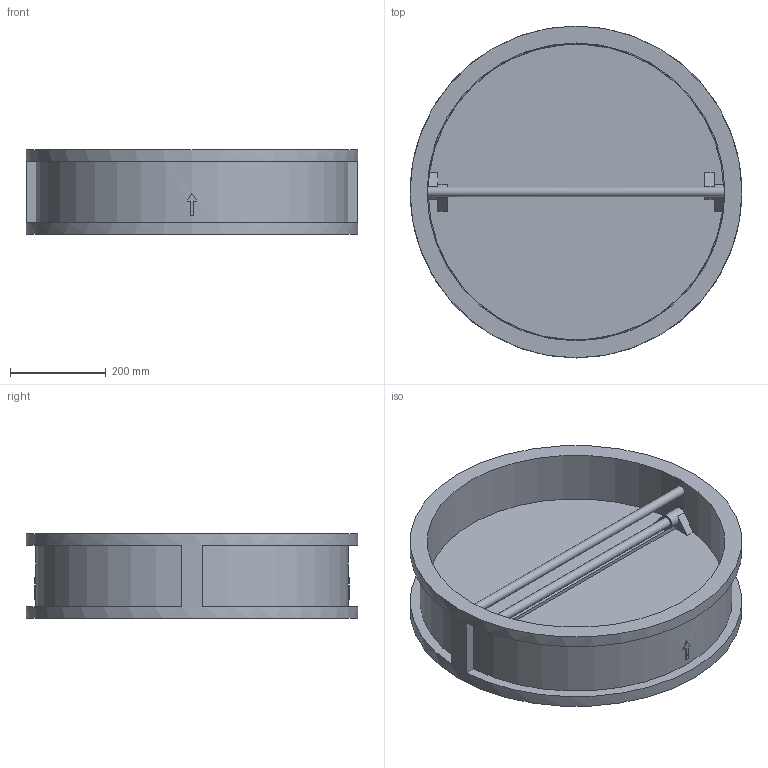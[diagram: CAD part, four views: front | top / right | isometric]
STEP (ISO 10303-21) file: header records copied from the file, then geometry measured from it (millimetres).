
FILE_DESCRIPTION(('STEP AP203'), '1');
FILE_NAME('孰囡囗 钺疣蝽 溻篚耱忸瘅囹 戾骠豚眦邂 010C DN600', '', ('UNSPECIFIED'), ('UNSPECIFIED'), 'ASCON STEP Converter 1.6', 'ASCON Math Kernel', '');
FILE_SCHEMA(('CONFIG_CONTROL_DESIGN'));
Length unit declared in the file: millimetre
Bounding box: 695 x 695 x 178 mm (x, y, z)
Volume: 15580524.9 mm3; surface area: 1720401.7 mm2
Topology: 1 solids, 1 shells, 73 faces, 201 edges, 132 vertices
Faces by surface type: plane 55, cylinder 16, cone 2
Full cylindrical faces by diameter (mm): 20 x4, 624 x1, 695 x1
Entity records: 4168 total; most frequent: CARTESIAN_POINT 1710, ORIENTED_EDGE 388, DIRECTION 360, EDGE_CURVE 194, VERTEX_POINT 132, LINE 124, VECTOR 124, AXIS2_PLACEMENT_3D 118
